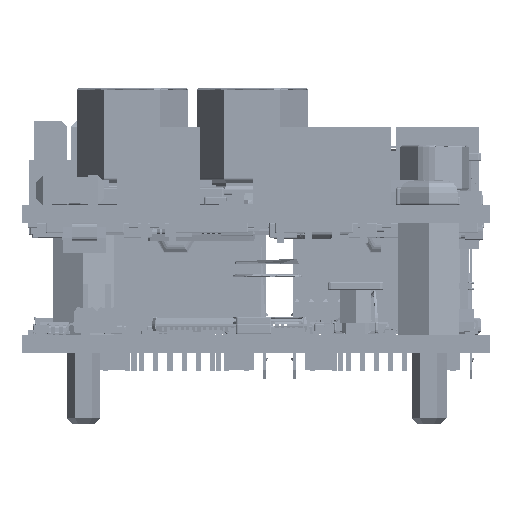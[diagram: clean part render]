
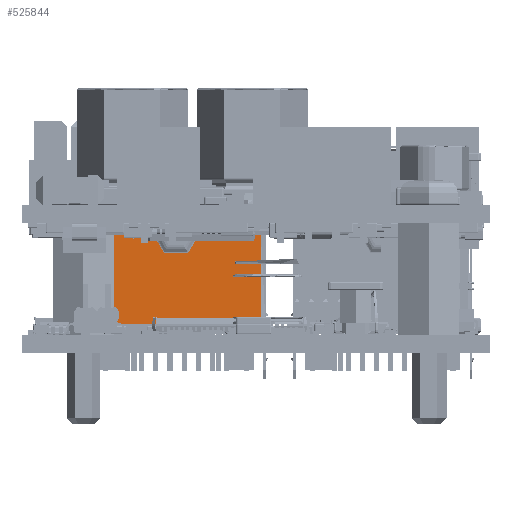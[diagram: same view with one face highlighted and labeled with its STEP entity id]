
A CAD part, left-side view. The second image highlights one B-rep face of the part: STEP entity #525844.
In plain terms, the highlighted planar face has unit normal (-1, 0, 0) as drawn and (0, -1, 0) by its records, which use the part's own axes.
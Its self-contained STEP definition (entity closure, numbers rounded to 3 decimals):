
#514331=CARTESIAN_POINT('',(7.88,-0.25,
-7.45));
#514332=DIRECTION('',(0.,1.,0.));
#514333=DIRECTION('',(1.,0.,0.));
#514334=AXIS2_PLACEMENT_3D('',#514331,#514332,#514333);
#514339=CARTESIAN_POINT('',(7.88,-0.25,
-7.45));
#514340=DIRECTION('',(0.,1.,0.));
#514341=DIRECTION('',(-1.,0.,
0.014));
#514342=AXIS2_PLACEMENT_3D('',#514339,#514340,#514341);
#514347=CARTESIAN_POINT('',(7.88,-0.25,
-7.45));
#514348=DIRECTION('',(0.,1.,0.));
#514349=DIRECTION('',(-1.,0.,0.));
#514350=AXIS2_PLACEMENT_3D('',#514347,#514348,#514349);
#514355=CARTESIAN_POINT('',(7.88,-0.25,
-7.45));
#514356=DIRECTION('',(0.,1.,0.));
#514357=DIRECTION('',(1.,0.,-0.014));
#514358=AXIS2_PLACEMENT_3D('',#514355,#514356,#514357);
#514363=DIRECTION('',(-1.,0.,0.));
#514364=VECTOR('',#514363,0.1);
#514365=CARTESIAN_POINT('',(0.355,-0.25,-0.15));
#514366=LINE('',#514365,#514364);
#514370=DIRECTION('',(1.,0.,0.));
#514371=VECTOR('',#514370,1.281);
#514372=CARTESIAN_POINT('',(0.355,-0.25,-0.15));
#514373=LINE('',#514372,#514371);
#514377=CARTESIAN_POINT('',(1.636,-0.25,-0.15));
#514378=CARTESIAN_POINT('',(1.655,-0.25,
-0.171));
#514379=CARTESIAN_POINT('',(1.696,-0.25,
-0.206));
#514380=CARTESIAN_POINT('',(1.779,-0.25,
-0.242));
#514381=CARTESIAN_POINT('',(1.833,-0.25,
-0.25));
#514382=CARTESIAN_POINT('',(1.86,-0.25,
-0.25));
#514387=DIRECTION('',(-1.,0.,0.));
#514388=VECTOR('',#514387,4.821);
#514389=CARTESIAN_POINT('',(6.681,-0.25,
-0.25));
#514390=LINE('',#514389,#514388);
#514394=CARTESIAN_POINT('',(6.681,-0.25,
-0.25));
#514395=CARTESIAN_POINT('',(6.708,-0.25,
-0.25));
#514396=CARTESIAN_POINT('',(6.759,-0.25,
-0.243));
#514397=CARTESIAN_POINT('',(6.844,-0.25,
-0.205));
#514398=CARTESIAN_POINT('',(6.885,-0.25,
-0.171));
#514399=CARTESIAN_POINT('',(6.904,-0.25,-0.15));
#514404=DIRECTION('',(1.,0.,0.));
#514405=VECTOR('',#514404,1.953);
#514406=CARTESIAN_POINT('',(6.904,-0.25,-0.15));
#514407=LINE('',#514406,#514405);
#514411=CARTESIAN_POINT('',(8.856,-0.25,-0.15));
#514412=CARTESIAN_POINT('',(8.875,-0.25,
-0.171));
#514413=CARTESIAN_POINT('',(8.916,-0.25,
-0.206));
#514414=CARTESIAN_POINT('',(8.999,-0.25,
-0.242));
#514415=CARTESIAN_POINT('',(9.053,-0.25,
-0.25));
#514416=CARTESIAN_POINT('',(9.08,-0.25,
-0.25));
#514421=DIRECTION('',(-1.,0.,0.));
#514422=VECTOR('',#514421,4.821);
#514423=CARTESIAN_POINT('',(13.901,-0.25,
-0.25));
#514424=LINE('',#514423,#514422);
#514428=CARTESIAN_POINT('',(13.901,-0.25,
-0.25));
#514429=CARTESIAN_POINT('',(13.928,-0.25,
-0.25));
#514430=CARTESIAN_POINT('',(13.979,-0.25,
-0.243));
#514431=CARTESIAN_POINT('',(14.064,-0.25,
-0.205));
#514432=CARTESIAN_POINT('',(14.105,-0.25,
-0.171));
#514433=CARTESIAN_POINT('',(14.124,-0.25,-0.15));
#514438=DIRECTION('',(1.,0.,0.));
#514439=VECTOR('',#514438,1.281);
#514440=CARTESIAN_POINT('',(14.124,-0.25,-0.15));
#514441=LINE('',#514440,#514439);
#514445=DIRECTION('',(-1.,0.,0.));
#514446=VECTOR('',#514445,0.1);
#514447=CARTESIAN_POINT('',(15.505,-0.25,-0.15));
#514448=LINE('',#514447,#514446);
#514452=DIRECTION('',(0.,0.,-1.));
#514453=VECTOR('',#514452,15.6);
#514454=CARTESIAN_POINT('',(15.505,-0.25,-0.15));
#514455=LINE('',#514454,#514453);
#514459=DIRECTION('',(1.,0.,0.));
#514460=VECTOR('',#514459,15.25);
#514461=CARTESIAN_POINT('',(0.255,-0.25,-15.75));
#514462=LINE('',#514461,#514460);
#514466=DIRECTION('',(0.,0.,1.));
#514467=VECTOR('',#514466,15.2);
#514468=CARTESIAN_POINT('',(0.255,-0.25,-15.75));
#514469=LINE('',#514468,#514467);
#514473=DIRECTION('',(0.,0.,1.));
#514474=VECTOR('',#514473,0.4);
#514475=CARTESIAN_POINT('',(0.255,-0.25,-0.55));
#514476=LINE('',#514475,#514474);
#514487=CARTESIAN_POINT('',(0.255,-0.25,-0.15));
#515170=CARTESIAN_POINT('',(0.255,-0.25,-15.75));
#524504=CARTESIAN_POINT('',(15.505,-0.25,-15.75));
#524505=CARTESIAN_POINT('',(15.505,-0.25,-0.15));
#524506=VERTEX_POINT('',#524504);
#524507=VERTEX_POINT('',#524505);
#524508=CARTESIAN_POINT('',(15.405,-0.25,-0.15));
#524509=CARTESIAN_POINT('',(14.124,-0.25,-0.15));
#524510=VERTEX_POINT('',#524508);
#524511=VERTEX_POINT('',#524509);
#524512=VERTEX_POINT('',#514428);
#524513=VERTEX_POINT('',#514416);
#524514=VERTEX_POINT('',#514411);
#524515=CARTESIAN_POINT('',(6.904,-0.25,-0.15));
#524516=VERTEX_POINT('',#524515);
#524517=VERTEX_POINT('',#514394);
#524518=VERTEX_POINT('',#514382);
#524519=VERTEX_POINT('',#514377);
#524527=VERTEX_POINT('',#515170);
#524552=VERTEX_POINT('',#514487);
#525419=CARTESIAN_POINT('',(5.713,-0.25,
-7.419));
#525421=VERTEX_POINT('',#525419);
#525427=CARTESIAN_POINT('',(10.048,-0.25,
-7.481));
#525428=VERTEX_POINT('',#525427);
#525429=CARTESIAN_POINT('',(10.048,-0.25,
-7.45));
#525430=VERTEX_POINT('',#525429);
#525437=CARTESIAN_POINT('',(5.712,-0.25,
-7.45));
#525438=VERTEX_POINT('',#525437);
#525439=CARTESIAN_POINT('',(0.355,-0.25,-0.15));
#525440=VERTEX_POINT('',#525439);
#525697=CARTESIAN_POINT('',(0.255,-0.25,-0.55));
#525698=VERTEX_POINT('',#525697);
#525801=CARTESIAN_POINT('',(15.505,-0.25,-15.75));
#525802=DIRECTION('',(0.,1.,0.));
#525803=DIRECTION('',(-1.,0.,0.));
#525804=AXIS2_PLACEMENT_3D('',#525801,#525802,#525803);
#525805=PLANE('',#525804);
#525807=ORIENTED_EDGE('',*,*,#525806,.F.);
#525809=ORIENTED_EDGE('',*,*,#525808,.T.);
#525811=ORIENTED_EDGE('',*,*,#525810,.T.);
#525813=ORIENTED_EDGE('',*,*,#525812,.F.);
#525815=ORIENTED_EDGE('',*,*,#525814,.T.);
#525817=ORIENTED_EDGE('',*,*,#525816,.T.);
#525819=ORIENTED_EDGE('',*,*,#525818,.T.);
#525821=ORIENTED_EDGE('',*,*,#525820,.F.);
#525823=ORIENTED_EDGE('',*,*,#525822,.T.);
#525825=ORIENTED_EDGE('',*,*,#525824,.T.);
#525827=ORIENTED_EDGE('',*,*,#525826,.F.);
#525829=ORIENTED_EDGE('',*,*,#525828,.T.);
#525831=ORIENTED_EDGE('',*,*,#525830,.F.);
#525833=ORIENTED_EDGE('',*,*,#525832,.T.);
#525835=ORIENTED_EDGE('',*,*,#525834,.T.);
#525836=EDGE_LOOP('',(#525807,#525809,#525811,#525813,#525815,#525817,#525819,
#525821,#525823,#525825,#525827,#525829,#525831,#525833,#525835));
#525837=FACE_OUTER_BOUND('',#525836,.F.);
#525838=ORIENTED_EDGE('',*,*,#525772,.F.);
#525839=ORIENTED_EDGE('',*,*,#525770,.F.);
#525840=ORIENTED_EDGE('',*,*,#525788,.F.);
#525841=ORIENTED_EDGE('',*,*,#525796,.F.);
#525842=EDGE_LOOP('',(#525838,#525839,#525840,#525841));
#525843=FACE_BOUND('',#525842,.F.);
#514335=CIRCLE('',#514334,2.168);
#514343=CIRCLE('',#514342,2.168);
#514351=CIRCLE('',#514350,2.168);
#514359=CIRCLE('',#514358,2.168);
#514383=B_SPLINE_CURVE_WITH_KNOTS('',3,(#514377,#514378,#514379,#514380,#514381,
#514382),.UNSPECIFIED.,.F.,.F.,(4,1,1,4),(0.,0.333,
0.667,1.),.UNSPECIFIED.);
#514400=B_SPLINE_CURVE_WITH_KNOTS('',3,(#514394,#514395,#514396,#514397,#514398,
#514399),.UNSPECIFIED.,.F.,.F.,(4,1,1,4),(0.,0.333,
0.667,1.),.UNSPECIFIED.);
#514417=B_SPLINE_CURVE_WITH_KNOTS('',3,(#514411,#514412,#514413,#514414,#514415,
#514416),.UNSPECIFIED.,.F.,.F.,(4,1,1,4),(0.,0.333,
0.667,1.),.UNSPECIFIED.);
#514434=B_SPLINE_CURVE_WITH_KNOTS('',3,(#514428,#514429,#514430,#514431,#514432,
#514433),.UNSPECIFIED.,.F.,.F.,(4,1,1,4),(0.,0.333,
0.667,1.),.UNSPECIFIED.);
#525770=EDGE_CURVE('',#525421,#525430,#514343,.T.);
#525772=EDGE_CURVE('',#525430,#525428,#514335,.T.);
#525788=EDGE_CURVE('',#525438,#525421,#514351,.T.);
#525796=EDGE_CURVE('',#525428,#525438,#514359,.T.);
#525806=EDGE_CURVE('',#525440,#524552,#514366,.T.);
#525808=EDGE_CURVE('',#525440,#524519,#514373,.T.);
#525810=EDGE_CURVE('',#524519,#524518,#514383,.T.);
#525812=EDGE_CURVE('',#524517,#524518,#514390,.T.);
#525814=EDGE_CURVE('',#524517,#524516,#514400,.T.);
#525816=EDGE_CURVE('',#524516,#524514,#514407,.T.);
#525818=EDGE_CURVE('',#524514,#524513,#514417,.T.);
#525820=EDGE_CURVE('',#524512,#524513,#514424,.T.);
#525822=EDGE_CURVE('',#524512,#524511,#514434,.T.);
#525824=EDGE_CURVE('',#524511,#524510,#514441,.T.);
#525826=EDGE_CURVE('',#524507,#524510,#514448,.T.);
#525828=EDGE_CURVE('',#524507,#524506,#514455,.T.);
#525830=EDGE_CURVE('',#524527,#524506,#514462,.T.);
#525832=EDGE_CURVE('',#524527,#525698,#514469,.T.);
#525834=EDGE_CURVE('',#525698,#524552,#514476,.T.);
#525844=ADVANCED_FACE('',(#525837,#525843),#525805,.F.);
